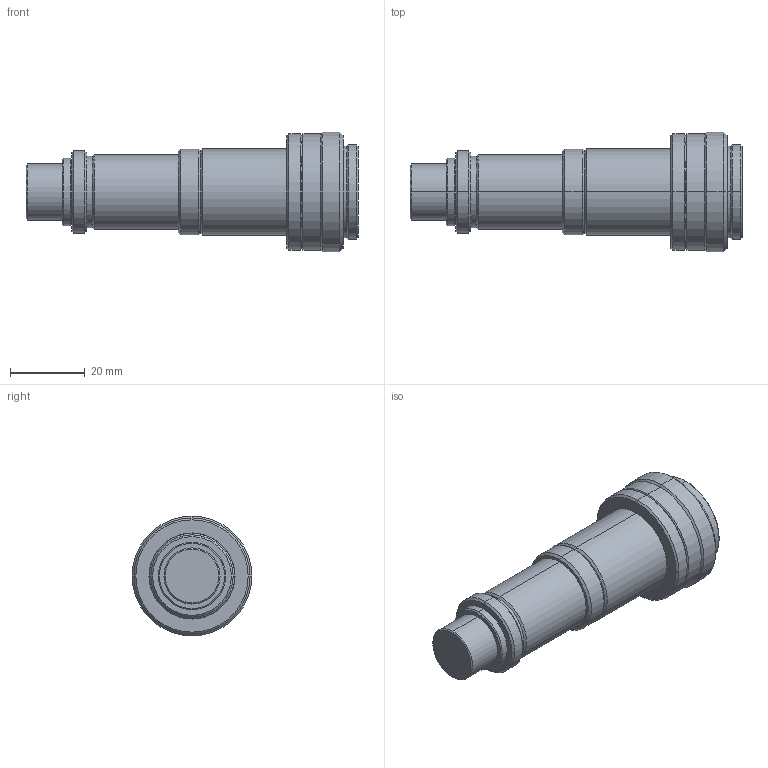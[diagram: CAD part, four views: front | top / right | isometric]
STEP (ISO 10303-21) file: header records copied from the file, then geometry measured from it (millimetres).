
FILE_DESCRIPTION (( 'STEP AP214' ), '1' );
FILE_NAME ('VS-MC0510.STEP', '2019-04-15T02:56:23', ( '' ), ( '' ), 'SwSTEP 2.0', 'SolidWorks 2018', '' );
FILE_SCHEMA (( 'AUTOMOTIVE_DESIGN' ));
Length unit declared in the file: millimetre
Products named in the file (1): VS-MC0510
Bounding box: 88.7 x 32 x 32 mm (x, y, z)
Volume: 36964.8 mm3; surface area: 7983.3 mm2
Topology: 1 solids, 1 shells, 65 faces, 128 edges, 72 vertices
Faces by surface type: cone 32, cylinder 24, plane 9
Entity records: 1688 total; most frequent: DIRECTION 332, CARTESIAN_POINT 266, ORIENTED_EDGE 256, AXIS2_PLACEMENT_3D 138, EDGE_CURVE 128, EDGE_LOOP 72, VERTEX_POINT 72, CIRCLE 72
